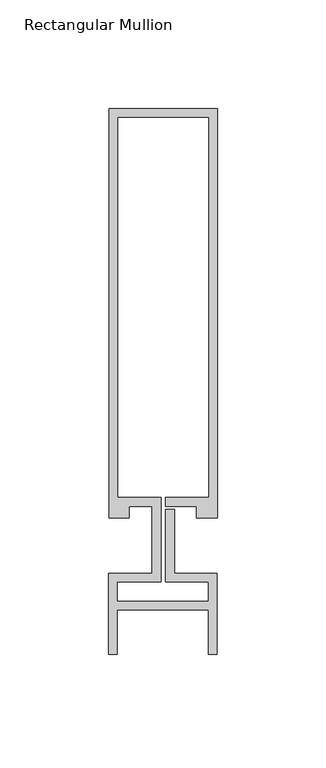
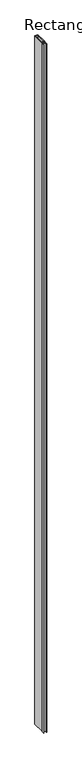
"""IFC4 building model written with IfcOpenShell, lengths in millimetres: member geometry, Rectangular Mullion : Reynaers_CW-50_Transom-Transom_188.5mm_Facecap-03."""

import ifcopenshell
import ifcopenshell.guid

model = None  # the IFC model being written
_history = None  # IfcOwnerHistory: only IFC2X3 demands one
_inside = {}  # id of a spatial element -> (the spatial element, [elements in it])
_under = {}  # id of a project, library or spatial element -> (it, [spatial elements below it])
_declared = {}  # id of a project -> (the project, [libraries it declares])
_typed = {}  # id of a type object -> (the type object, [elements of that type])
_made_of = {}  # id of a material, layer set ... -> (it, [elements and type objects made of it])


def new_model(schema):
    """Start an empty IFC model of exactly this schema.

    Asked for "IFC4X3", IfcOpenShell would pick the latest addendum, in which some entities
    have other attributes; the version numbers below select the first issue.
    IFC2X3 requires an IfcOwnerHistory on every rooted entity: one is made here for all.
    """
    global model, _history
    if schema == "IFC4X3":
        model = ifcopenshell.file(schema_version=(4, 3, 0, 0))
    else:
        model = ifcopenshell.file(schema=schema)
    _inside.clear()
    _under.clear()
    _declared.clear()
    _typed.clear()
    _made_of.clear()
    _history = None
    if model.schema == "IFC2X3":
        org = make("IfcOrganization", Name="unknown")
        user = make(
            "IfcPersonAndOrganization",
            ThePerson=make("IfcPerson", FamilyName="unknown"),
            TheOrganization=org,
        )
        app = make(
            "IfcApplication",
            ApplicationDeveloper=org,
            Version="unknown",
            ApplicationFullName="unknown",
            ApplicationIdentifier="unknown",
        )
        _history = make(
            "IfcOwnerHistory",
            OwningUser=user,
            OwningApplication=app,
            ChangeAction="ADDED",
            CreationDate=0,
        )
    return model


def make(cls, **values):
    """One entity of the class cls with the attributes given. An attribute that is None is left unset."""
    return model.create_entity(
        cls, **{name: value for name, value in values.items() if value is not None}
    )


def rooted(cls, **values):
    """An entity with a GlobalId (a new one), such as an element, a storey or a relation."""
    return make(cls, GlobalId=ifcopenshell.guid.new(), OwnerHistory=_history, **values)


def si_unit(unit_type, name, prefix=None):
    """IfcSIUnit, for example si_unit("LENGTHUNIT", "METRE", prefix="MILLI")."""
    return make("IfcSIUnit", UnitType=unit_type, Prefix=prefix, Name=name)


def assignment(units):
    """IfcUnitAssignment: the units of a project."""
    return None if units is None else make("IfcUnitAssignment", Units=units)


def point(xyz):
    """IfcCartesianPoint."""
    return None if xyz is None else make("IfcCartesianPoint", Coordinates=xyz)


def direction(xyz):
    """IfcDirection."""
    return None if xyz is None else make("IfcDirection", DirectionRatios=xyz)


def frame(location, z_axis=None, x_axis=None):
    """IfcAxis2Placement3D, a coordinate frame: its origin and axes. An axis left out is left unset."""
    return make(
        "IfcAxis2Placement3D",
        Location=point(location),
        Axis=direction(z_axis),
        RefDirection=direction(x_axis),
    )


def origin():
    """The frame at (0, 0, 0) with its axes left unset."""
    return frame((0.0, 0.0, 0.0))


def place(relative_to, where):
    """IfcLocalPlacement: puts the frame where relative to a parent placement (None: the world)."""
    return make(
        "IfcLocalPlacement", PlacementRelTo=relative_to, RelativePlacement=where
    )


def context(
    kind, dimensions, precision=None, world=None, true_north=None, identifier=None
):
    """IfcGeometricRepresentationContext, for example the 3D "Model" context."""
    return make(
        "IfcGeometricRepresentationContext",
        ContextIdentifier=identifier,
        ContextType=kind,
        CoordinateSpaceDimension=dimensions,
        Precision=precision,
        WorldCoordinateSystem=world,
        TrueNorth=true_north,
    )


def project(units=None, contexts=None):
    """IfcProject with its units and contexts."""
    return rooted(
        "IfcProject",
        Name="project",
        RepresentationContexts=contexts,
        UnitsInContext=assignment(units),
    )


def spatial(cls, under=None, at=None, **own):
    """A site, building, storey or space (cls), placed at a placement, below another one or the project."""
    s = rooted(cls, ObjectPlacement=at, **own)
    if under is not None:
        _under.setdefault(under.id(), (under, []))[1].append(s)
    return s


def polyline(points):
    """IfcPolyline through the points."""
    return make("IfcPolyline", Points=[point(p) for p in points])


def outline(outer, holes=None, kind="AREA"):
    """IfcArbitraryClosedProfileDef: a profile drawn as a closed curve; with holes, ...WithVoids."""
    if holes is None:
        return make("IfcArbitraryClosedProfileDef", ProfileType=kind, OuterCurve=outer)
    return make(
        "IfcArbitraryProfileDefWithVoids",
        ProfileType=kind,
        OuterCurve=outer,
        InnerCurves=holes,
    )


def extrude(swept, where, along, depth):
    """IfcExtrudedAreaSolid: the profile swept, set in the frame where, extruded along a direction by depth."""
    return make(
        "IfcExtrudedAreaSolid",
        SweptArea=swept,
        Position=where,
        ExtrudedDirection=direction(along),
        Depth=depth,
    )


def shape(context_of_items, identifier, shape_type, items):
    """IfcShapeRepresentation: the items that make up one representation, for example the "Body"."""
    return make(
        "IfcShapeRepresentation",
        ContextOfItems=context_of_items,
        RepresentationIdentifier=identifier,
        RepresentationType=shape_type,
        Items=items,
    )


def source(mapping_origin, context_of_items, identifier, shape_type, items):
    """IfcRepresentationMap: a shape defined once, which mapped items show again and again."""
    return make(
        "IfcRepresentationMap",
        MappingOrigin=mapping_origin,
        MappedRepresentation=shape(context_of_items, identifier, shape_type, items),
    )


def transform(
    local_origin,
    x_axis=None,
    y_axis=None,
    z_axis=None,
    scale=None,
    scale2=None,
    scale3=None,
    uniform=True,
):
    """IfcCartesianTransformationOperator3D, or its non-uniform kind. x_axis, y_axis, z_axis: its Axis1, 2, 3."""
    if uniform:
        return make(
            "IfcCartesianTransformationOperator3D",
            Axis1=direction(x_axis),
            Axis2=direction(y_axis),
            LocalOrigin=point(local_origin),
            Scale=scale,
            Axis3=direction(z_axis),
        )
    return make(
        "IfcCartesianTransformationOperator3DnonUniform",
        Axis1=direction(x_axis),
        Axis2=direction(y_axis),
        LocalOrigin=point(local_origin),
        Scale=scale,
        Axis3=direction(z_axis),
        Scale2=scale2,
        Scale3=scale3,
    )


def mapped(mapping_source, mapping_target):
    """IfcMappedItem: shows the shape of a source again, moved by a transform."""
    return make(
        "IfcMappedItem", MappingSource=mapping_source, MappingTarget=mapping_target
    )


def made_of(thing, what):
    """Note that an element or type object is made of a material, layer set ...; save() writes the relation."""
    if what is not None:
        _made_of.setdefault(what.id(), (what, []))[1].append(thing)
    return thing


def element(
    cls,
    number,
    at=None,
    inside=None,
    cuts=None,
    type_object=None,
    material=None,
    context=None,
    identifier="Body",
    shape_type=None,
    held_by="IfcProductDefinitionShape",
    body=None,
    shapes=None,
    **own,
):
    """One element of the class cls, such as IfcWall. Its Tag is "e" and its number.

    at: its placement. inside: the storey or other place that contains it. cuts: it is an
    opening in that element (IfcRelVoidsElement). A single representation is given by context,
    identifier, shape_type and body (its items); several are given by shapes. held_by: the class
    of the entity that holds the representations. save() writes the other relations.
    """
    e = rooted(cls, Tag="e%d" % number, ObjectPlacement=at, **own)
    if body is not None:
        shapes = [shape(context, identifier, shape_type, body)]
    if shapes is not None:
        e.Representation = make(held_by, Representations=shapes)
    if inside is not None:
        _inside.setdefault(inside.id(), (inside, []))[1].append(e)
    if cuts is not None:
        rooted(
            "IfcRelVoidsElement", RelatingBuildingElement=cuts, RelatedOpeningElement=e
        )
    if type_object is not None:
        _typed.setdefault(type_object.id(), (type_object, []))[1].append(e)
    return made_of(e, material)


def aggregate(whole, parts):
    """IfcRelAggregates: a whole, such as a stair, and the parts it consists of."""
    return rooted("IfcRelAggregates", RelatingObject=whole, RelatedObjects=parts)


def save(model, path):
    """Write the relations noted so far, then the file.

    IfcRelAggregates (storeys below a building ...), IfcRelContainedInSpatialStructure (elements
    in a storey), IfcRelDefinesByType, IfcRelAssociatesMaterial and IfcRelDeclares: one each for
    every whole, place, type object, material and project.
    """
    for whole, parts in _under.values():
        aggregate(whole, parts)
    for where, things in _inside.values():
        rooted(
            "IfcRelContainedInSpatialStructure",
            RelatedElements=things,
            RelatingStructure=where,
        )
    for kind, things in _typed.values():
        rooted("IfcRelDefinesByType", RelatedObjects=things, RelatingType=kind)
    for what, things in _made_of.values():
        rooted("IfcRelAssociatesMaterial", RelatedObjects=things, RelatingMaterial=what)
    for by, libraries in _declared.values():
        rooted("IfcRelDeclares", RelatingContext=by, RelatedDefinitions=libraries)
    model.write(path)


def rectangular_mullion_80356d6c(model_context):
    return source(origin(), model_context, "Body", "SweptSolid", [
        extrude(outline(polyline([(25.1995941, 12.7331291), (15.499, 12.7331291), (15.499, 18.1331291), (1.2995941, 18.1331291), (1.2995941, 22.1331291), (21.1995941, 22.1331291), (21.1995941, 197.2331291), (-20.8004059, 197.2331291), (-20.8004059, 22.1331291), (-0.9004059, 22.1331291), (-0.9004059, -16.7331291), (-20.994845, -16.7331291), (-20.994845, -25.5600018), (20.994845, -25.5600018), (20.994845, -16.7331291), (1.2995941, -16.7331291), (1.2995941, 16.7615089), (5.2995941, 16.7615089), (5.2995941, -12.7331291), (24.994845, -12.7331291), (24.994845, -50.0331291), (20.994845, -50.0331291), (20.994845, -29.5600018), (-20.994845, -29.5600018), (-20.994845, -50.0331291), (-24.994845, -50.0331291), (-24.994845, -12.7331291), (-4.9004059, -12.7331291), (-4.9004059, 18.1331291), (-15.499, 18.1331291), (-15.499, 12.7331291), (-24.8004059, 12.7331291), (-24.8004059, 201.2331291), (25.1995941, 201.2331291), (25.1995941, 12.7331291)])), frame((0.0, 0.0, -12000.0), z_axis=(0.0, 0.0, 1.0), x_axis=(1.0, 0.0, 0.0)), (0.0, 0.0, 1.0), 12000.0),
    ])


if __name__ == "__main__":
    model = new_model("IFC4")
    model_context = context("Model", 3, world=origin())
    ifc_project = project(units=[si_unit("LENGTHUNIT", "METRE", prefix="MILLI")], contexts=[model_context])
    site = spatial("IfcSite", under=ifc_project)
    building = spatial("IfcBuilding", under=site)
    placement = place(None, origin())
    rectangular_mullion_shape = rectangular_mullion_80356d6c(model_context)
    element("IfcMember", 1, ObjectType="Rectangular Mullion : Reynaers_CW-50_Transom-Transom_188.5mm_Facecap-03", at=placement, inside=building, context=model_context, shape_type="MappedRepresentation", body=[
        mapped(rectangular_mullion_shape, transform((0.0, 0.0, 0.0), x_axis=(1.0, 0.0, 0.0), y_axis=(0.0, 1.0, 0.0), z_axis=(0.0, 0.0, 1.0))),
    ])
    save(model, "model.ifc")
